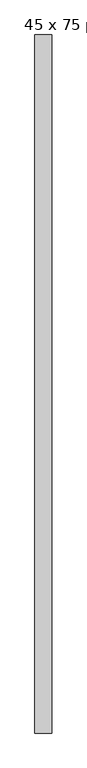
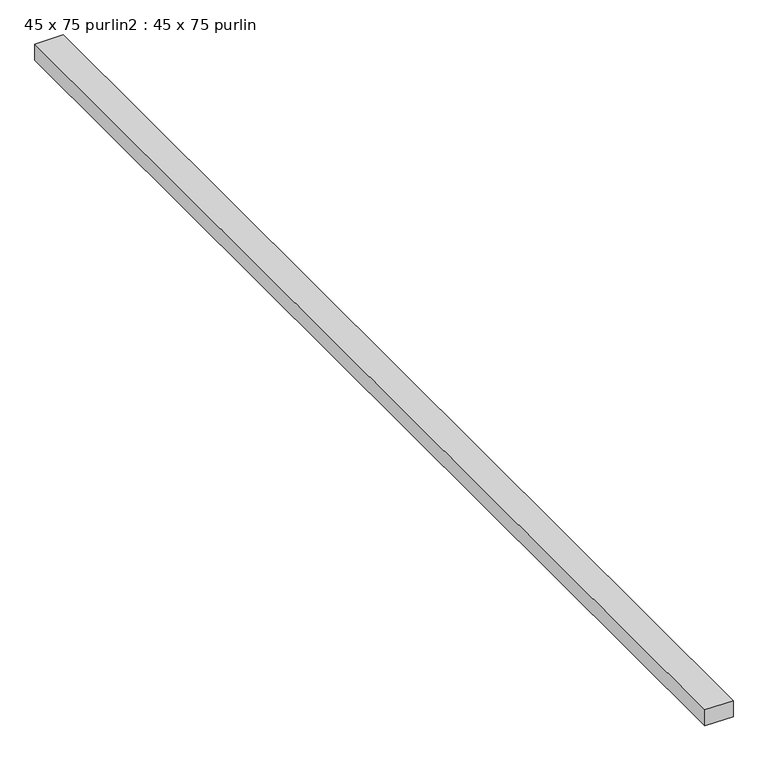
"""IFC4 building model written with IfcOpenShell, lengths in millimetres: proxy geometry, 45 x 75 purlin2 : 45 x 75 purlin."""

from ifc_helpers import new_model, si_unit, frame, origin, place, context, project, spatial, polyline, outline, extrude, source, transform, mapped, element, save


def proxy_45_x_75_purlin2_45_x_75_purlin_c250b625(model_context):
    return source(origin(), model_context, "Body", "SweptSolid", [
        extrude(outline(polyline([(-27542.5216852, -23329.5415677), (-27617.5216852, -23329.5415677), (-27617.5216852, -20239.5415677), (-27542.5216852, -20239.5415677), (-27542.5216852, -23329.5415677)])), frame((0.0, 0.0, 3784.2452806), z_axis=(0.0, 0.0, 1.0), x_axis=(1.0, 0.0, 0.0)), (0.0, 0.0, 1.0), 45.0),
    ])


if __name__ == "__main__":
    model = new_model("IFC4")
    model_context = context("Model", 3, world=origin())
    ifc_project = project(units=[si_unit("LENGTHUNIT", "METRE", prefix="MILLI")], contexts=[model_context])
    site = spatial("IfcSite", under=ifc_project)
    building = spatial("IfcBuilding", under=site)
    placement = place(None, origin())
    proxy_45_x_75_purlin2_45_x_75_purlin_shape = proxy_45_x_75_purlin2_45_x_75_purlin_c250b625(model_context)
    element("IfcBuildingElementProxy", 1, Name="45 x 75 purlin2 : 45 x 75 purlin", ObjectType="45 x 75 purlin2 : 45 x 75 purlin", at=placement, inside=building, context=model_context, shape_type="MappedRepresentation", body=[
        mapped(proxy_45_x_75_purlin2_45_x_75_purlin_shape, transform((0.0, 0.0, 0.0), x_axis=(1.0, 0.0, 0.0), y_axis=(0.0, 1.0, 0.0), z_axis=(0.0, 0.0, 1.0))),
    ])
    save(model, "model.ifc")
